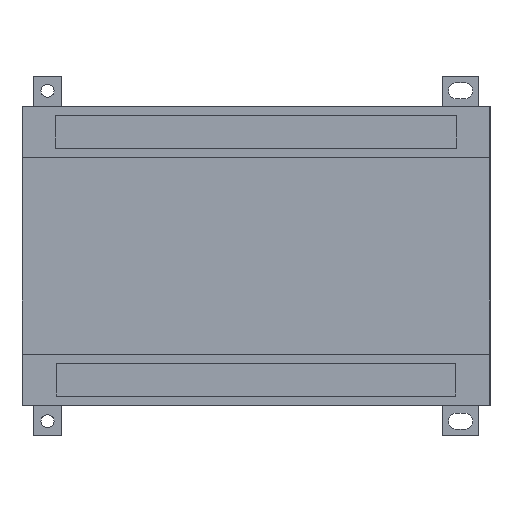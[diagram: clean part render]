
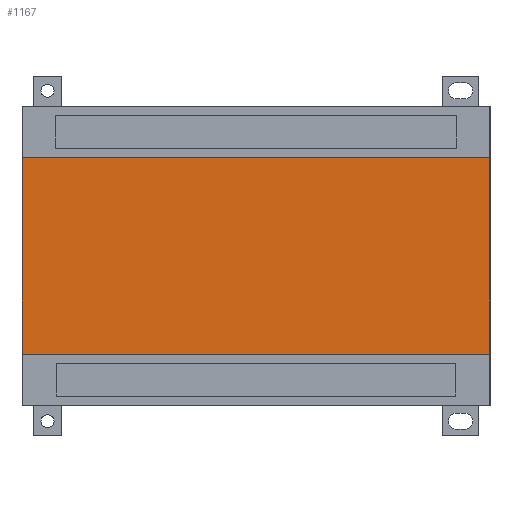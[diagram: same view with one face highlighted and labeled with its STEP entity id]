
A CAD part, top view. The second image highlights one B-rep face of the part: STEP entity #1167.
In plain terms, the highlighted planar face has unit normal (0, 0, 1).
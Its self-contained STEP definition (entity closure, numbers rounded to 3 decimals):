
#19 = ORIENTED_EDGE ( 'NONE', *, *, #2780, .T. ) ;
#122 = ORIENTED_EDGE ( 'NONE', *, *, #429, .T. ) ;
#126 = DIRECTION ( 'NONE',  ( 0., -1., 0. ) ) ;
#189 = PLANE ( 'NONE',  #3651 ) ;
#328 = LINE ( 'NONE', #1077, #2542 ) ;
#429 = EDGE_CURVE ( 'NONE', #1007, #3032, #506, .T. ) ;
#506 = LINE ( 'NONE', #1444, #700 ) ;
#674 = VECTOR ( 'NONE', #126, 1000. ) ;
#698 = EDGE_CURVE ( 'NONE', #872, #1007, #3094, .T. ) ;
#700 = VECTOR ( 'NONE', #2298, 1000. ) ;
#735 = DIRECTION ( 'NONE',  ( 0., 1., 0. ) ) ;
#816 = CARTESIAN_POINT ( 'NONE',  ( -89.235, 37.5, 21. ) ) ;
#872 = VERTEX_POINT ( 'NONE', #1386 ) ;
#889 = VECTOR ( 'NONE', #735, 1000. ) ;
#1007 = VERTEX_POINT ( 'NONE', #2453 ) ;
#1029 = FACE_OUTER_BOUND ( 'NONE', #1216, .T. ) ;
#1077 = CARTESIAN_POINT ( 'NONE',  ( 0., -37.5, 21. ) ) ;
#1089 = DIRECTION ( 'NONE',  ( 0., 0., -1. ) ) ;
#1165 = EDGE_CURVE ( 'NONE', #872, #2474, #328, .T. ) ;
#1167 = ADVANCED_FACE ( 'NONE', ( #1029 ), #189, .F. ) ;
#1216 = EDGE_LOOP ( 'NONE', ( #2615, #1757, #122, #19 ) ) ;
#1386 = CARTESIAN_POINT ( 'NONE',  ( 89.235, -37.5, 21. ) ) ;
#1444 = CARTESIAN_POINT ( 'NONE',  ( 0., 37.5, 21. ) ) ;
#1757 = ORIENTED_EDGE ( 'NONE', *, *, #698, .T. ) ;
#1892 = CARTESIAN_POINT ( 'NONE',  ( -89.235, -37.5, 21. ) ) ;
#2201 = LINE ( 'NONE', #3590, #674 ) ;
#2211 = DIRECTION ( 'NONE',  ( -1., 0., 0. ) ) ;
#2298 = DIRECTION ( 'NONE',  ( -1., 0., 0. ) ) ;
#2453 = CARTESIAN_POINT ( 'NONE',  ( 89.235, 37.5, 21. ) ) ;
#2458 = CARTESIAN_POINT ( 'NONE',  ( 89.235, -56.99, 21. ) ) ;
#2474 = VERTEX_POINT ( 'NONE', #1892 ) ;
#2542 = VECTOR ( 'NONE', #2211, 1000. ) ;
#2615 = ORIENTED_EDGE ( 'NONE', *, *, #1165, .F. ) ;
#2780 = EDGE_CURVE ( 'NONE', #3032, #2474, #2201, .T. ) ;
#2789 = CARTESIAN_POINT ( 'NONE',  ( 0., 0., 21. ) ) ;
#3032 = VERTEX_POINT ( 'NONE', #816 ) ;
#3086 = DIRECTION ( 'NONE',  ( -1., 0., 0. ) ) ;
#3094 = LINE ( 'NONE', #2458, #889 ) ;
#3590 = CARTESIAN_POINT ( 'NONE',  ( -89.235, -56.99, 21. ) ) ;
#3651 = AXIS2_PLACEMENT_3D ( 'NONE', #2789, #1089, #3086 ) ;
